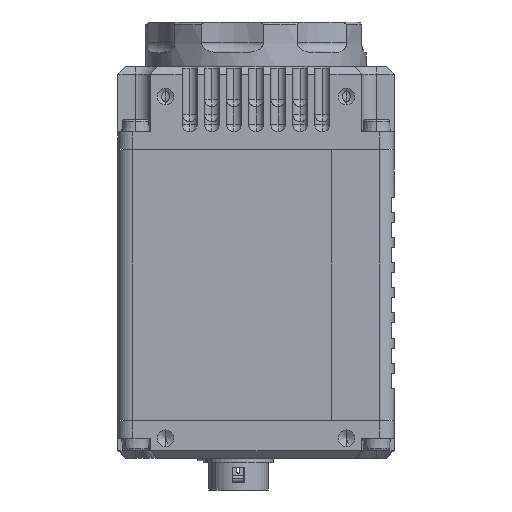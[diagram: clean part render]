
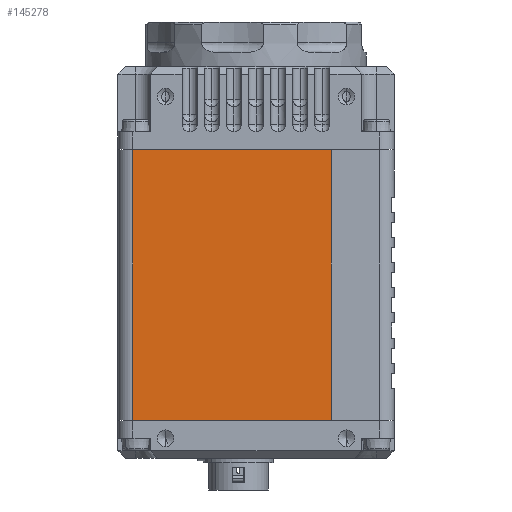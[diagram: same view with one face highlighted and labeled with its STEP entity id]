
A CAD part, left-side view. The second image highlights one B-rep face of the part: STEP entity #145278.
In plain terms, the highlighted planar face has unit normal (-1, 0, 0).
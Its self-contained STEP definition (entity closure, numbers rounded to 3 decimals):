
#2662 = EDGE_CURVE ( 'NONE', #74549, #135721, #147008, .T. ) ;
#4963 = CARTESIAN_POINT ( 'NONE',  ( -28.059, 25.651, 18.719 ) ) ;
#6558 = ORIENTED_EDGE ( 'NONE', *, *, #82020, .T. ) ;
#6648 = CARTESIAN_POINT ( 'NONE',  ( -28.059, 28.651, 18.719 ) ) ;
#8097 = VECTOR ( 'NONE', #73676, 1000. ) ;
#8452 = DIRECTION ( 'NONE',  ( 1., 0., 0. ) ) ;
#8691 = CARTESIAN_POINT ( 'NONE',  ( -28.059, 25.651, -35.181 ) ) ;
#21284 = LINE ( 'NONE', #23977, #86659 ) ;
#23977 = CARTESIAN_POINT ( 'NONE',  ( -28.059, 28.651, -35.181 ) ) ;
#35884 = VERTEX_POINT ( 'NONE', #4963 ) ;
#36575 = DIRECTION ( 'NONE',  ( 0., 1., 0. ) ) ;
#38857 = DIRECTION ( 'NONE',  ( 0., 0., -1. ) ) ;
#51108 = CARTESIAN_POINT ( 'NONE',  ( -28.059, -13.849, 18.719 ) ) ;
#61180 = EDGE_CURVE ( 'NONE', #35884, #74549, #128803, .T. ) ;
#61951 = FACE_OUTER_BOUND ( 'NONE', #177426, .T. ) ;
#69932 = VERTEX_POINT ( 'NONE', #8691 ) ;
#73676 = DIRECTION ( 'NONE',  ( 0., -1., 0. ) ) ;
#74549 = VERTEX_POINT ( 'NONE', #111956 ) ;
#82020 = EDGE_CURVE ( 'NONE', #69932, #135721, #21284, .T. ) ;
#86659 = VECTOR ( 'NONE', #173502, 1000. ) ;
#89978 = PLANE ( 'NONE',  #114980 ) ;
#97934 = EDGE_CURVE ( 'NONE', #35884, #69932, #162933, .T. ) ;
#111956 = CARTESIAN_POINT ( 'NONE',  ( -28.059, -13.849, 18.719 ) ) ;
#114980 = AXIS2_PLACEMENT_3D ( 'NONE', #6648, #8452, #36575 ) ;
#122479 = ORIENTED_EDGE ( 'NONE', *, *, #2662, .F. ) ;
#125878 = VECTOR ( 'NONE', #38857, 1000. ) ;
#126515 = ORIENTED_EDGE ( 'NONE', *, *, #97934, .T. ) ;
#128803 = LINE ( 'NONE', #169705, #8097 ) ;
#128815 = ORIENTED_EDGE ( 'NONE', *, *, #61180, .F. ) ;
#132065 = CARTESIAN_POINT ( 'NONE',  ( -28.059, 25.651, 18.719 ) ) ;
#135131 = DIRECTION ( 'NONE',  ( 0., 0., -1. ) ) ;
#135721 = VERTEX_POINT ( 'NONE', #169926 ) ;
#145278 = ADVANCED_FACE ( 'NONE', ( #61951 ), #89978, .F. ) ;
#147008 = LINE ( 'NONE', #51108, #157109 ) ;
#157109 = VECTOR ( 'NONE', #135131, 1000. ) ;
#162933 = LINE ( 'NONE', #132065, #125878 ) ;
#169705 = CARTESIAN_POINT ( 'NONE',  ( -28.059, 28.651, 18.719 ) ) ;
#169926 = CARTESIAN_POINT ( 'NONE',  ( -28.059, -13.849, -35.181 ) ) ;
#173502 = DIRECTION ( 'NONE',  ( 0., -1., 0. ) ) ;
#177426 = EDGE_LOOP ( 'NONE', ( #128815, #126515, #6558, #122479 ) ) ;
